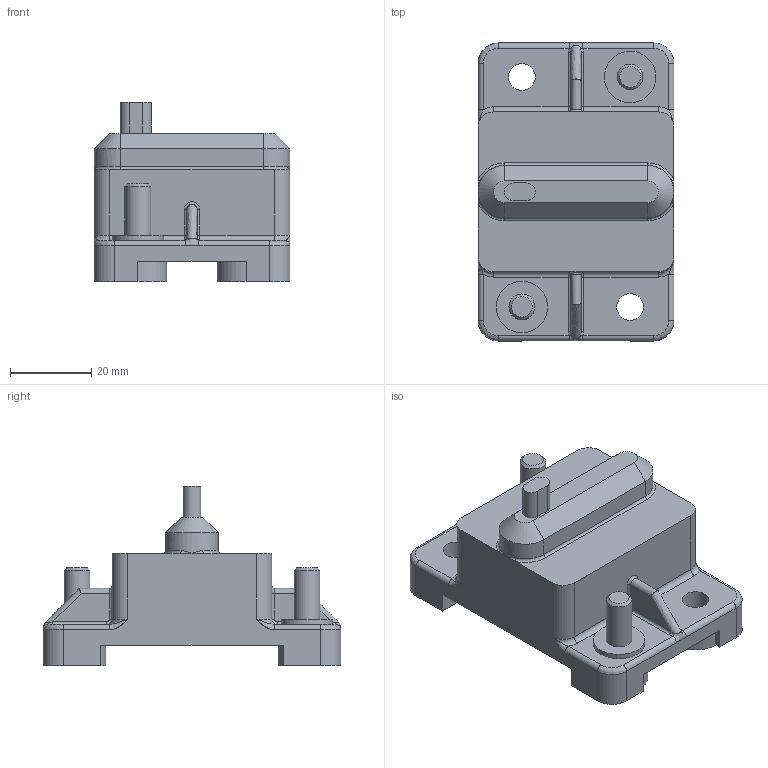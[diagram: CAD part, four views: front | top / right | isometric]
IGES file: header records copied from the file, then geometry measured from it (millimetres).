
Global section: file name: No Iges File Name specified; native system: AutoDesk Inventor R5.0; preprocessor: AutoDesk Inventor Iges Exporter R5.0; author: No Author specified; organization: No Organization specified; date: 20040120.151432; units: inch
Bounding box: 48.26 x 73.41 x 44.2 mm (x, y, z)
Surface area: 15297.7 mm2 (no closed solid volume)
Topology: 0 solids, 0 shells, 133 faces, 648 edges, 628 vertices
Faces by surface type: revolution 56, bspline 40, plane 37
